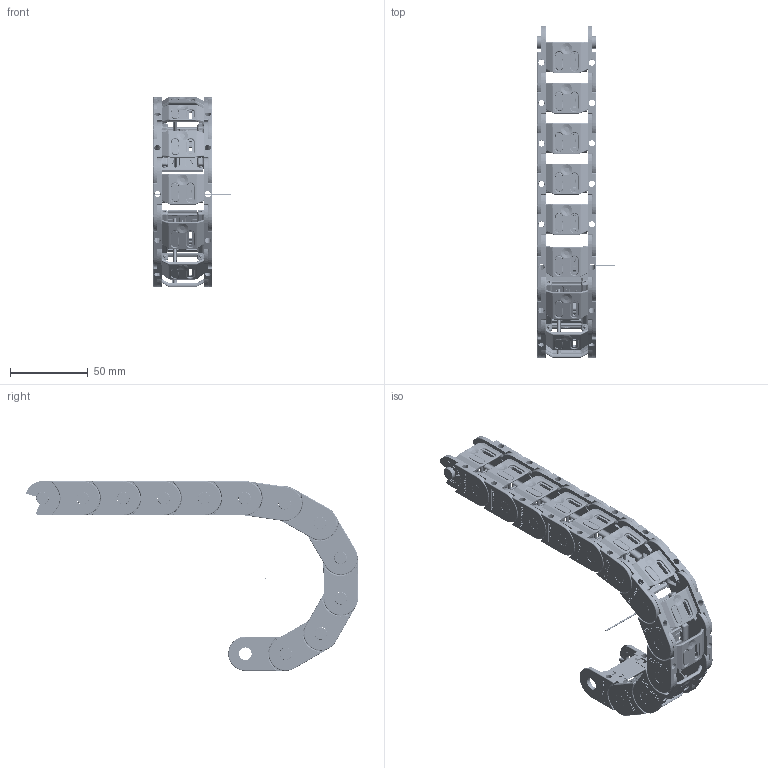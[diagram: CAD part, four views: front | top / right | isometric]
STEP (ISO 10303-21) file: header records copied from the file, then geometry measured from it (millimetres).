
FILE_DESCRIPTION((''),'2;1');
FILE_NAME('C:\Uebbing\PARAMETERKETTEN\KOLIBRI\Kol_22_038_0\KOLIBRI 22_038_0_PARAMETRISCH.stp','2012-03-05T07:32:35',('Uebbing'),(''),'Autodesk Inventor 10','Autodesk Inventor 10','');
FILE_SCHEMA(('AUTOMOTIVE_DESIGN { 1 0 10303 214 1 1 1 1 }'));
Length unit declared in the file: millimetre
Products named in the file (6): KOLIBRI 22_038_0_PARAMETRISCH; Achse; Kol_22_038_0; Kol_22_038_0_Lasche; Kol_22_038_0_PZ_Stecksteg; Kol_22_038_0_Klappsteg
Assembly tree (16 placements, depth 3):
  KOLIBRI 22_038_0_PARAMETRISCH
    Achse
    Kol_22_038_0  x12
      Kol_22_038_0_Lasche
      Kol_22_038_0_PZ_Stecksteg
      Kol_22_038_0_Klappsteg
Bounding box: 50 x 213.32 x 122 mm (x, y, z)
Volume: 88190.1 mm3; surface area: 99988.9 mm2
Topology: 37 solids, 37 shells, 16983 faces, 45256 edges, 29343 vertices
Faces by surface type: bspline 9072, plane 5138, cylinder 2221, torus 324, sphere 132, cone 96
Full cylindrical faces by diameter (mm): 0.804 x12, 1 x1, 1.412 x12, 1.9 x48, 2 x24, 3 x48, 4 x12, 5 x12, 8 x12, 8.1 x12
Entity records: 51302 total; most frequent: CARTESIAN_POINT 19465, ORIENTED_EDGE 7424, DIRECTION 4959, EDGE_CURVE 3712, VERTEX_POINT 2437, VECTOR 2193, LINE 2193, EDGE_LOOP 1573
